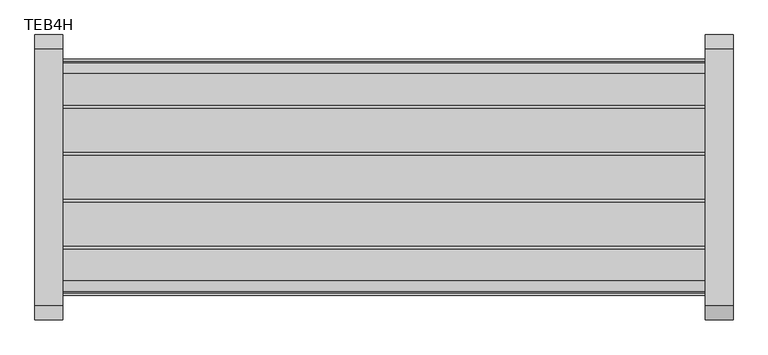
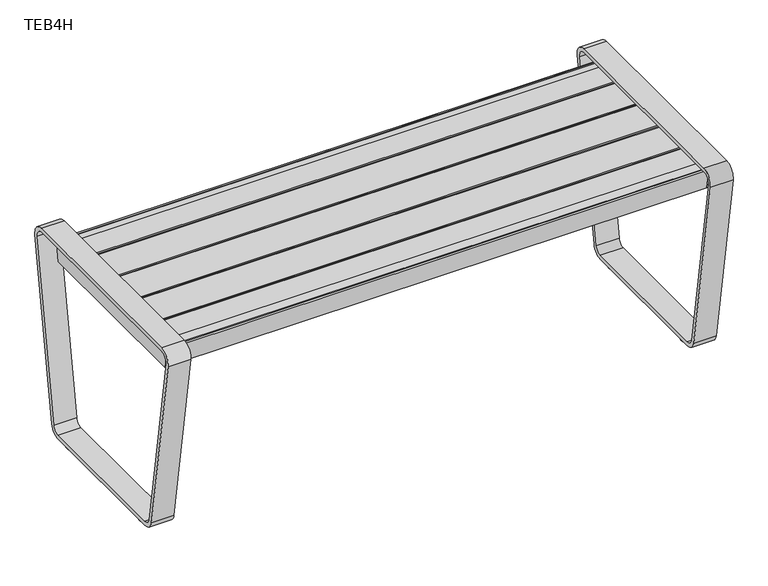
"""IFC4 building model written with IfcOpenShell, lengths in millimetres: furniture geometry, Stance_HC-Terrace-Straight_Bench_HDPE : TEB4H."""

from ifc_helpers import new_model, si_unit, point, frame, frame_2d, origin, origin_with_axes, place, context, project, spatial, polyline, circle_curve, trimmed, segment, composite_curve, outline, extrude, source, transform, mapped, element, save


def teb4h_23ed36cb(model_context):
    return source(origin(), model_context, "Body", "SweptSolid", [
        extrude(outline(polyline([(880.26875, -50.90414), (880.26875, -467.25586), (791.36875, -467.25586), (791.36875, -50.90414), (880.26875, -50.90414)])), frame((0.0, 0.0, 432.435), z_axis=(0.0, 0.0, 1.0), x_axis=(1.0, 0.0, 0.0)), (0.0, 0.0, 1.0), 3.175),
        extrude(outline(composite_curve([segment(polyline([(-467.25586, 432.435), (-50.90414, 432.435), (-57.0623598, 397.51)]), True, "CONTINUOUS"), segment(trimmed(circle_curve(frame_2d((-259.08, 1997.8972816)), 1613.0872816), [point((-57.0623598, 397.51))], [point((-461.0976402, 397.51))], False, "CARTESIAN"), True, "CONTINUOUS"), segment(polyline([(-461.0976402, 397.51), (-467.25586, 432.435)]), True, "CONTINUOUS")], self_intersect=False)), frame((833.43115, 0.0, 0.0), z_axis=(1.0, 0.0, 0.0), x_axis=(0.0, 1.0, 0.0)), (0.0, 0.0, 1.0), 4.7752),
        extrude(outline(polyline([(677.8625, -50.90414), (677.8625, -467.25586), (588.9625, -467.25586), (588.9625, -50.90414), (677.8625, -50.90414)])), frame((0.0, 0.0, 432.435), z_axis=(0.0, 0.0, 1.0), x_axis=(1.0, 0.0, 0.0)), (0.0, 0.0, 1.0), 3.175),
        extrude(outline(composite_curve([segment(polyline([(-467.25586, 432.435), (-50.90414, 432.435), (-57.0623598, 397.51)]), True, "CONTINUOUS"), segment(trimmed(circle_curve(frame_2d((-259.08, 1997.8972816)), 1613.0872816), [point((-57.0623598, 397.51))], [point((-461.0976402, 397.51))], False, "CARTESIAN"), True, "CONTINUOUS"), segment(polyline([(-461.0976402, 397.51), (-467.25586, 432.435)]), True, "CONTINUOUS")], self_intersect=False)), frame((631.0249, 0.0, 0.0), z_axis=(1.0, 0.0, 0.0), x_axis=(0.0, 1.0, 0.0)), (0.0, 0.0, 1.0), 4.7752),
        extrude(outline(polyline([(475.45625, -50.90414), (475.45625, -467.25586), (386.55625, -467.25586), (386.55625, -50.90414), (475.45625, -50.90414)])), frame((0.0, 0.0, 432.435), z_axis=(0.0, 0.0, 1.0), x_axis=(1.0, 0.0, 0.0)), (0.0, 0.0, 1.0), 3.175),
        extrude(outline(composite_curve([segment(polyline([(-467.25586, 432.435), (-50.90414, 432.435), (-57.0623598, 397.51)]), True, "CONTINUOUS"), segment(trimmed(circle_curve(frame_2d((-259.08, 1997.8972816)), 1613.0872816), [point((-57.0623598, 397.51))], [point((-461.0976402, 397.51))], False, "CARTESIAN"), True, "CONTINUOUS"), segment(polyline([(-461.0976402, 397.51), (-467.25586, 432.435)]), True, "CONTINUOUS")], self_intersect=False)), frame((428.61865, 0.0, 0.0), z_axis=(1.0, 0.0, 0.0), x_axis=(0.0, 1.0, 0.0)), (0.0, 0.0, 1.0), 4.7752),
        extrude(outline(polyline([(1082.675, -50.90414), (1082.675, -467.25586), (993.775, -467.25586), (993.775, -50.90414), (1082.675, -50.90414)])), frame((0.0, 0.0, 432.435), z_axis=(0.0, 0.0, 1.0), x_axis=(1.0, 0.0, 0.0)), (0.0, 0.0, 1.0), 3.175),
        extrude(outline(composite_curve([segment(polyline([(-467.25586, 432.435), (-50.90414, 432.435), (-57.0623598, 397.51)]), True, "CONTINUOUS"), segment(trimmed(circle_curve(frame_2d((-259.08, 1997.8972816)), 1613.0872816), [point((-57.0623598, 397.51))], [point((-461.0976402, 397.51))], False, "CARTESIAN"), True, "CONTINUOUS"), segment(polyline([(-461.0976402, 397.51), (-467.25586, 432.435)]), True, "CONTINUOUS")], self_intersect=False)), frame((1035.8374, 0.0, 0.0), z_axis=(1.0, 0.0, 0.0), x_axis=(0.0, 1.0, 0.0)), (0.0, 0.0, 1.0), 4.7752),
        extrude(outline(polyline([(273.05, -50.90414), (273.05, -467.25586), (184.15, -467.25586), (184.15, -50.90414), (273.05, -50.90414)])), frame((0.0, 0.0, 432.435), z_axis=(0.0, 0.0, 1.0), x_axis=(1.0, 0.0, 0.0)), (0.0, 0.0, 1.0), 3.175),
        extrude(outline(composite_curve([segment(polyline([(-467.25586, 432.435), (-50.90414, 432.435), (-57.0623598, 397.51)]), True, "CONTINUOUS"), segment(trimmed(circle_curve(frame_2d((-259.08, 1997.8972816)), 1613.0872816), [point((-57.0623598, 397.51))], [point((-461.0976402, 397.51))], False, "CARTESIAN"), True, "CONTINUOUS"), segment(polyline([(-461.0976402, 397.51), (-467.25586, 432.435)]), True, "CONTINUOUS")], self_intersect=False)), frame((226.2124, 0.0, 0.0), z_axis=(1.0, 0.0, 0.0), x_axis=(0.0, 1.0, 0.0)), (0.0, 0.0, 1.0), 4.7752),
        extrude(outline(polyline([(-476.5675, 457.8350949), (-41.5925, 457.8350949), (-52.2294419, 397.51), (-465.9305581, 397.51), (-476.5675, 457.8350949)])), frame((1241.425, 0.0, 0.0), z_axis=(1.0, 0.0, 0.0), x_axis=(0.0, 1.0, 0.0)), (0.0, 0.0, 1.0), 6.35),
        extrude(outline(composite_curve([segment(trimmed(circle_curve(frame_2d((1244.6, -399.75536)), 22.225), [point((1266.825, -399.75536))], [point((1222.375, -399.75536))], False, "CARTESIAN"), True, "CONTINUOUS"), segment(trimmed(circle_curve(frame_2d((1244.6, -399.75536)), 22.225), [point((1222.375, -399.75536))], [point((1266.825, -399.75536))], False, "CARTESIAN"), True, "CONTINUOUS")], self_intersect=False)), origin_with_axes(), (0.0, 0.0, 1.0), 6.35),
        extrude(outline(composite_curve([segment(trimmed(circle_curve(frame_2d((1244.6, -118.40464)), 22.225), [point((1266.825, -118.40464))], [point((1222.375, -118.40464))], False, "CARTESIAN"), True, "CONTINUOUS"), segment(trimmed(circle_curve(frame_2d((1244.6, -118.40464)), 22.225), [point((1222.375, -118.40464))], [point((1266.825, -118.40464))], False, "CARTESIAN"), True, "CONTINUOUS")], self_intersect=False)), origin_with_axes(), (0.0, 0.0, 1.0), 6.35),
        extrude(outline(composite_curve([segment(trimmed(circle_curve(frame_2d((-90.0611198, 31.75)), 25.4000949), [point((-64.9737422, 27.7765497))], [point((-90.0611198, 6.3499051))], False, "CARTESIAN"), True, "CONTINUOUS"), segment(polyline([(-90.0611198, 6.3499051), (-428.0988802, 6.3499051)]), True, "CONTINUOUS"), segment(trimmed(circle_curve(frame_2d((-428.0988802, 31.75)), 25.4000949), [point((-428.0988802, 6.3499051))], [point((-453.1862578, 27.7765497))], False, "CARTESIAN"), True, "CONTINUOUS"), segment(polyline([(-453.1862578, 27.7765497), (-518.157139, 437.9865497)]), True, "CONTINUOUS"), segment(trimmed(circle_curve(frame_2d((-493.0697614, 441.96)), 25.4000949), [point((-518.157139, 437.9865497))], [point((-493.0697614, 467.3600949))], False, "CARTESIAN"), True, "CONTINUOUS"), segment(polyline([(-493.0697614, 467.3600949), (-25.0902386, 467.3600949)]), True, "CONTINUOUS"), segment(trimmed(circle_curve(frame_2d((-25.0902386, 441.96)), 25.4000949), [point((-25.0902386, 467.3600949))], [point((-0.002861, 437.9865497))], False, "CARTESIAN"), True, "CONTINUOUS"), segment(polyline([(-0.002861, 437.9865497), (-64.9737422, 27.7765497)]), True, "CONTINUOUS")], self_intersect=False), holes=[composite_curve([segment(trimmed(circle_curve(frame_2d((-493.0697614, 441.96)), 15.8750949), [point((-493.0697614, 457.8350949))], [point((-508.7494076, 439.476588))], True, "CARTESIAN"), True, "CONTINUOUS"), segment(polyline([(-508.7494076, 439.476588), (-443.7785263, 29.266588)]), True, "CONTINUOUS"), segment(trimmed(circle_curve(frame_2d((-428.0988802, 31.75)), 15.8750949), [point((-443.7785263, 29.266588))], [point((-428.0988802, 15.8749051))], True, "CARTESIAN"), True, "CONTINUOUS"), segment(polyline([(-428.0988802, 15.8749051), (-90.0611198, 15.8749051)]), True, "CONTINUOUS"), segment(trimmed(circle_curve(frame_2d((-90.0611198, 31.75)), 15.8750949), [point((-90.0611198, 15.8749051))], [point((-74.3814737, 29.266588))], True, "CARTESIAN"), True, "CONTINUOUS"), segment(polyline([(-74.3814737, 29.266588), (-9.4105924, 439.476588)]), True, "CONTINUOUS"), segment(trimmed(circle_curve(frame_2d((-25.0902386, 441.96)), 15.8750949), [point((-9.4105924, 439.476588))], [point((-25.0902386, 457.8350949))], True, "CARTESIAN"), True, "CONTINUOUS"), segment(polyline([(-25.0902386, 457.8350949), (-493.0697614, 457.8350949)]), True, "CONTINUOUS")], self_intersect=False)]), frame((1219.2, 0.0, 0.0), z_axis=(1.0, 0.0, 0.0), x_axis=(0.0, 1.0, 0.0)), (0.0, 0.0, 1.0), 50.8),
        extrude(outline(polyline([(-476.5675, 457.8350949), (-41.5925, 457.8350949), (-52.2294419, 397.51), (-465.9305581, 397.51), (-476.5675, 457.8350949)])), frame((22.225, 0.0, 0.0), z_axis=(1.0, 0.0, 0.0), x_axis=(0.0, 1.0, 0.0)), (0.0, 0.0, 1.0), 6.35),
        extrude(outline(composite_curve([segment(trimmed(circle_curve(frame_2d((25.4, -399.75536)), 22.225), [point((3.175, -399.75536))], [point((47.625, -399.75536))], False, "CARTESIAN"), True, "CONTINUOUS"), segment(trimmed(circle_curve(frame_2d((25.4, -399.75536)), 22.225), [point((47.625, -399.75536))], [point((3.175, -399.75536))], False, "CARTESIAN"), True, "CONTINUOUS")], self_intersect=False)), origin_with_axes(), (0.0, 0.0, 1.0), 6.35),
        extrude(outline(composite_curve([segment(trimmed(circle_curve(frame_2d((25.4, -118.40464)), 22.225), [point((3.175, -118.40464))], [point((47.625, -118.40464))], False, "CARTESIAN"), True, "CONTINUOUS"), segment(trimmed(circle_curve(frame_2d((25.4, -118.40464)), 22.225), [point((47.625, -118.40464))], [point((3.175, -118.40464))], False, "CARTESIAN"), True, "CONTINUOUS")], self_intersect=False)), origin_with_axes(), (0.0, 0.0, 1.0), 6.35),
        extrude(outline(composite_curve([segment(polyline([(-493.0697614, 467.3600949), (-25.0902386, 467.3600949)]), True, "CONTINUOUS"), segment(trimmed(circle_curve(frame_2d((-25.0902386, 441.96)), 25.4000949), [point((-25.0902386, 467.3600949))], [point((-0.002861, 437.9865497))], False, "CARTESIAN"), True, "CONTINUOUS"), segment(polyline([(-0.002861, 437.9865497), (-64.9737422, 27.7765497)]), True, "CONTINUOUS"), segment(trimmed(circle_curve(frame_2d((-90.0611198, 31.75)), 25.4000949), [point((-64.9737422, 27.7765497))], [point((-90.0611198, 6.3499051))], False, "CARTESIAN"), True, "CONTINUOUS"), segment(polyline([(-90.0611198, 6.3499051), (-428.0988802, 6.3499051)]), True, "CONTINUOUS"), segment(trimmed(circle_curve(frame_2d((-428.0988802, 31.75)), 25.4000949), [point((-428.0988802, 6.3499051))], [point((-453.1862578, 27.7765497))], False, "CARTESIAN"), True, "CONTINUOUS"), segment(polyline([(-453.1862578, 27.7765497), (-518.157139, 437.9865497)]), True, "CONTINUOUS"), segment(trimmed(circle_curve(frame_2d((-493.0697614, 441.96)), 25.4000949), [point((-518.157139, 437.9865497))], [point((-493.0697614, 467.3600949))], False, "CARTESIAN"), True, "CONTINUOUS")], self_intersect=False), holes=[composite_curve([segment(polyline([(-74.3814737, 29.266588), (-9.4105924, 439.476588)]), True, "CONTINUOUS"), segment(trimmed(circle_curve(frame_2d((-25.0902386, 441.96)), 15.8750949), [point((-9.4105924, 439.476588))], [point((-25.0902386, 457.8350949))], True, "CARTESIAN"), True, "CONTINUOUS"), segment(polyline([(-25.0902386, 457.8350949), (-493.0697614, 457.8350949)]), True, "CONTINUOUS"), segment(trimmed(circle_curve(frame_2d((-493.0697614, 441.96)), 15.8750949), [point((-493.0697614, 457.8350949))], [point((-508.7494076, 439.476588))], True, "CARTESIAN"), True, "CONTINUOUS"), segment(polyline([(-508.7494076, 439.476588), (-443.7785263, 29.266588)]), True, "CONTINUOUS"), segment(trimmed(circle_curve(frame_2d((-428.0988802, 31.75)), 15.8750949), [point((-443.7785263, 29.266588))], [point((-428.0988802, 15.8749051))], True, "CARTESIAN"), True, "CONTINUOUS"), segment(polyline([(-428.0988802, 15.8749051), (-90.0611198, 15.8749051)]), True, "CONTINUOUS"), segment(trimmed(circle_curve(frame_2d((-90.0611198, 31.75)), 15.8750949), [point((-90.0611198, 15.8749051))], [point((-74.3814737, 29.266588))], True, "CARTESIAN"), True, "CONTINUOUS")], self_intersect=False)]), frame((0.0, 0.0, 0.0), z_axis=(1.0, 0.0, 0.0), x_axis=(0.0, 1.0, 0.0)), (0.0, 0.0, 1.0), 50.8),
        extrude(outline(polyline([(-57.0610609, 397.510164), (-461.0989391, 397.510164), (-467.2574614, 432.4368793), (-50.9025386, 432.4368793), (-57.0610609, 397.510164)])), frame((1236.6625, 0.0, 0.0), z_axis=(1.0, 0.0, 0.0), x_axis=(0.0, 1.0, 0.0)), (0.0, 0.0, 1.0), 4.7625),
        extrude(outline(polyline([(-57.0610609, 397.510164), (-461.0989391, 397.510164), (-467.2574614, 432.4368793), (-50.9025386, 432.4368793), (-57.0610609, 397.510164)])), frame((28.575, 0.0, 0.0), z_axis=(1.0, 0.0, 0.0), x_axis=(0.0, 1.0, 0.0)), (0.0, 0.0, 1.0), 4.7625),
        extrude(outline(polyline([(0.0, -4.7625), (0.0, 0.0), (1212.85, 0.0), (1212.85, -4.7625), (0.0, -4.7625)])), frame((1241.425, -57.0623598, 397.51), z_axis=(0.0, 0.17364817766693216, 0.9848077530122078), x_axis=(-1.0, 0.0, 0.0)), (0.0, 0.0, 1.0), 48.35906),
        extrude(outline(polyline([(0.0, -4.7625), (0.0, 0.0), (1212.85, 0.0), (1212.85, -4.7625), (0.0, -4.7625)])), frame((1241.425, -465.7877871, 396.6830006), z_axis=(0.0, -0.17364817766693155, 0.9848077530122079), x_axis=(-1.0, 0.0, 0.0)), (0.0, 0.0, 1.0), 48.35906),
        extrude(outline(polyline([(-51.1175, 445.2927764), (-52.8248347, 435.61), (-465.3351653, 435.61), (-467.0425, 445.2927764), (-447.9925, 448.31), (-390.8425, 448.31), (-390.8425, 445.135), (-384.4925, 445.135), (-384.4925, 448.31), (-305.1175, 448.31), (-305.1175, 445.135), (-298.7675, 445.135), (-298.7675, 448.31), (-219.3925, 448.31), (-219.3925, 445.135), (-213.0425, 445.135), (-213.0425, 448.31), (-133.6675, 448.31), (-133.6675, 445.135), (-127.3175, 445.135), (-127.3175, 448.31), (-70.1675, 448.31), (-51.1175, 445.2927764)])), frame((31.75, 0.0, 0.0), z_axis=(1.0, 0.0, 0.0), x_axis=(0.0, 1.0, 0.0)), (0.0, 0.0, 1.0), 1209.675),
    ])


if __name__ == "__main__":
    model = new_model("IFC4")
    model_context = context("Model", 3, world=origin())
    ifc_project = project(units=[si_unit("LENGTHUNIT", "METRE", prefix="MILLI")], contexts=[model_context])
    site = spatial("IfcSite", under=ifc_project)
    building = spatial("IfcBuilding", under=site)
    placement = place(None, origin())
    teb4h_shape = teb4h_23ed36cb(model_context)
    element("IfcFurniture", 1, ObjectType="Stance_HC-Terrace-Straight_Bench_HDPE : TEB4H", at=placement, inside=building, context=model_context, shape_type="MappedRepresentation", body=[
        mapped(teb4h_shape, transform((0.0, 0.0, 0.0), x_axis=(1.0, 0.0, 0.0), y_axis=(0.0, 1.0, 0.0), z_axis=(0.0, 0.0, 1.0))),
    ])
    save(model, "model.ifc")
